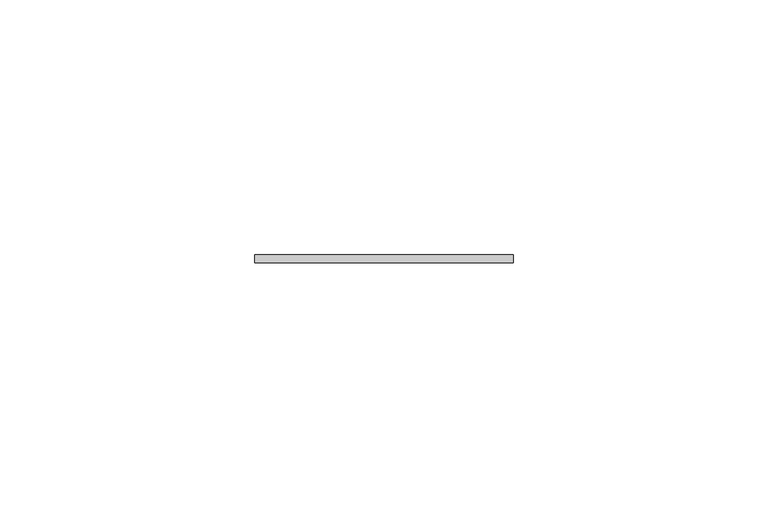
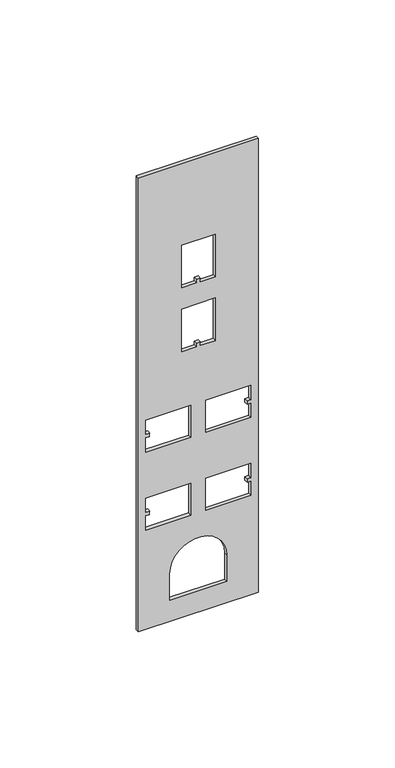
"""IFC4 building model written with IfcOpenShell, lengths in millimetres: proxy geometry, Accessory-Wiremold-Data_And_AV_Add_on_Cover_25_Series_Poles : 25DTC-CVR."""

from ifc_helpers import new_model, si_unit, point, frame, frame_2d, origin, place, context, project, spatial, polyline, circle_curve, trimmed, segment, composite_curve, outline, extrude, source, transform, mapped, element, save


def communication_devices_789b57db(model_context):
    return source(origin(), model_context, "Body", "SweptSolid", [
        extrude(outline(polyline([(203.2, 25.4), (203.2, -25.4), (0.0, -25.4), (0.0, 25.4), (203.2, 25.4)]), holes=[composite_curve([segment(polyline([(9.525, -12.05), (21.3100073, -12.05)]), True, "CONTINUOUS"), segment(trimmed(circle_curve(frame_2d((21.3100073, 0.0)), 12.05), [point((21.3100073, -12.05))], [point((21.3100073, 12.05))], True, "CARTESIAN"), True, "CONTINUOUS"), segment(polyline([(21.3100073, 12.05), (9.525, 12.05), (9.525, -12.05)]), True, "CONTINUOUS")], self_intersect=False), polyline([(58.7375, -22.225), (58.7375, -3.175), (44.45, -3.175), (44.45, -22.225), (50.8, -22.225), (50.8, -20.6375), (52.3875, -20.6375), (52.3875, -22.225), (58.7375, -22.225)]), polyline([(44.45, 22.225), (44.45, 3.175), (58.7375, 3.175), (58.7375, 22.225), (52.3875, 22.225), (52.3875, 20.6375), (50.8, 20.6375), (50.8, 22.225), (44.45, 22.225)]), polyline([(93.6625, -22.225), (93.6625, -3.175), (79.375, -3.175), (79.375, -22.225), (85.725, -22.225), (85.725, -20.6375), (87.3125, -20.6375), (87.3125, -22.225), (93.6625, -22.225)]), polyline([(93.6625, 3.175), (93.6625, 22.225), (87.3125, 22.225), (87.3125, 20.6375), (85.725, 20.6375), (85.725, 22.225), (79.375, 22.225), (79.375, 3.175), (93.6625, 3.175)]), polyline([(119.0625, -7.14375), (138.1125, -7.14375), (138.1125, 7.14375), (119.0625, 7.14375), (119.0625, 0.79375), (120.65, 0.79375), (120.65, -0.79375), (119.0625, -0.79375), (119.0625, -7.14375)]), polyline([(147.6375, -7.14375), (166.6875, -7.14375), (166.6875, 7.14375), (147.6375, 7.14375), (147.6375, 0.79375), (149.225, 0.79375), (149.225, -0.79375), (147.6375, -0.79375), (147.6375, -7.14375)])]), frame((0.0, 0.0, 0.0), z_axis=(0.0, 1.0, 0.0), x_axis=(0.0, 0.0, 1.0)), (0.0, 0.0, 1.0), 1.5875),
    ])


if __name__ == "__main__":
    model = new_model("IFC4")
    model_context = context("Model", 3, world=origin())
    ifc_project = project(units=[si_unit("LENGTHUNIT", "METRE", prefix="MILLI")], contexts=[model_context])
    site = spatial("IfcSite", under=ifc_project)
    building = spatial("IfcBuilding", under=site)
    placement = place(None, origin())
    communication_devices_shape = communication_devices_789b57db(model_context)
    element("IfcBuildingElementProxy", 1, Name="Accessory-Wiremold-Data_And_AV_Add_on_Cover_25_Series_Poles : 25DTC-CVR", ObjectType="Accessory-Wiremold-Data_And_AV_Add_on_Cover_25_Series_Poles : 25DTC-CVR", at=placement, inside=building, context=model_context, shape_type="MappedRepresentation", body=[
        mapped(communication_devices_shape, transform((0.0, 0.0, 0.0), x_axis=(1.0, 0.0, 0.0), y_axis=(0.0, 1.0, 0.0), z_axis=(0.0, 0.0, 1.0))),
    ])
    save(model, "model.ifc")
